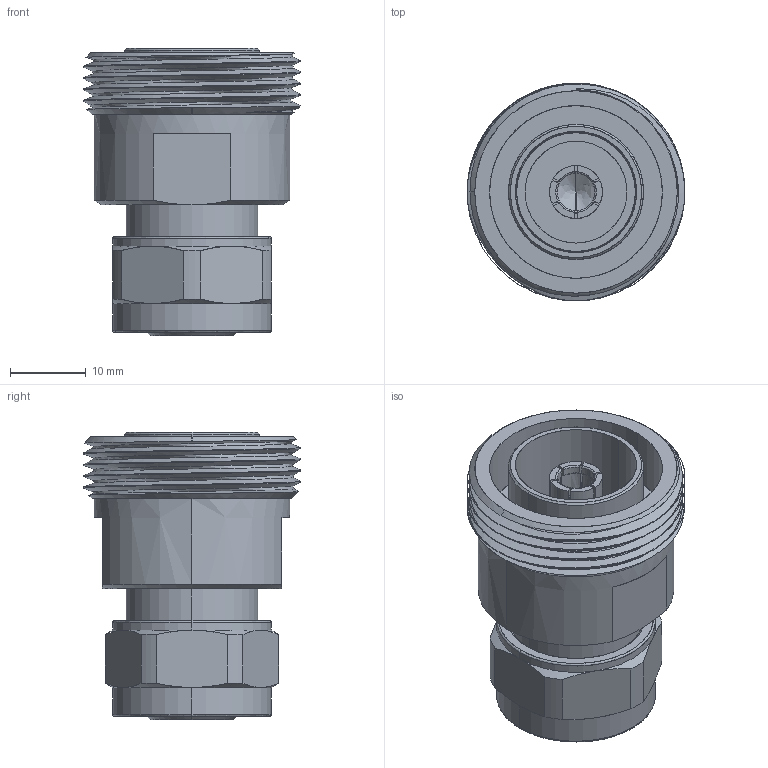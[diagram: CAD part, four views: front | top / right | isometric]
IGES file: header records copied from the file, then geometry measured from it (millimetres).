
Start section: SolidWorks IGES file using analytic representation for surfaces
Global section: file name: E:\Solidworks\Sketches\Shannon\1_MODELS_WEB\4.1_9.5\2234000Q001-282\2234000Q001-282igs.IGS; native system: SolidWorks 2014; preprocessor: SolidWorks 2014; author: sculpepper; date: 151123.090218; units: inch
Bounding box: 28.83 x 28.83 x 38.1 mm (x, y, z)
Surface area: 8139.6 mm2 (no closed solid volume)
Topology: 0 solids, 0 shells, 197 faces, 3607 edges, 4092 vertices
Faces by surface type: revolution 122, bspline 75
